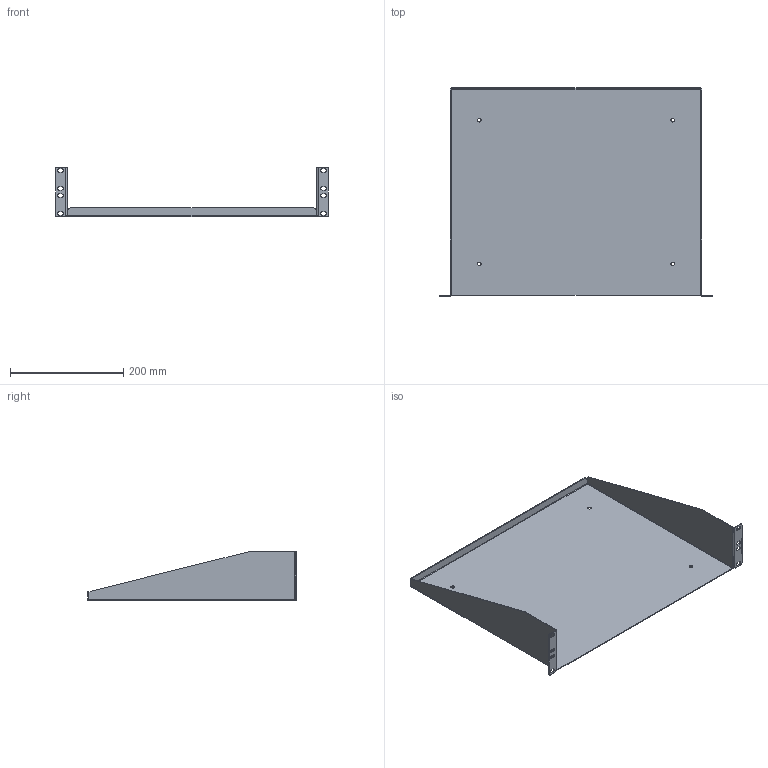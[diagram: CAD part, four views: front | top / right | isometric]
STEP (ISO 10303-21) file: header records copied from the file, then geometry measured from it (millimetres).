
FILE_DESCRIPTION( ( 'Unknown' ), '1' );
FILE_NAME( 'Q:/ACCESSORIES/SHELVES/RAS/WEB DRAWINGS/STEP/RASUL190314.stp', 'Unknown', ( 'Unknown' ), ( 'Unknown' ), 'PSStep 10.1', 'Unknown', ' ' );
FILE_SCHEMA( ( 'AUTOMOTIVE_DESIGN { 1 0 10303 214 1 1 1 1 }' ) );
Length unit declared in the file: millimetre
Products named in the file (1): 1
Bounding box: 482.75 x 368.3 x 88.09 mm (x, y, z)
Volume: 310253.3 mm3; surface area: 431833 mm2
Topology: 1 solids, 1 shells, 102 faces, 280 edges, 180 vertices
Faces by surface type: plane 58, cylinder 40, bspline 4
Full cylindrical faces by diameter (mm): 6.35 x4
Entity records: 4308 total; most frequent: CARTESIAN_POINT 863, ORIENTED_EDGE 544, DIRECTION 530, EDGE_CURVE 272, AXIS2_PLACEMENT_3D 179, VERTEX_POINT 176, LINE 172, VECTOR 172
